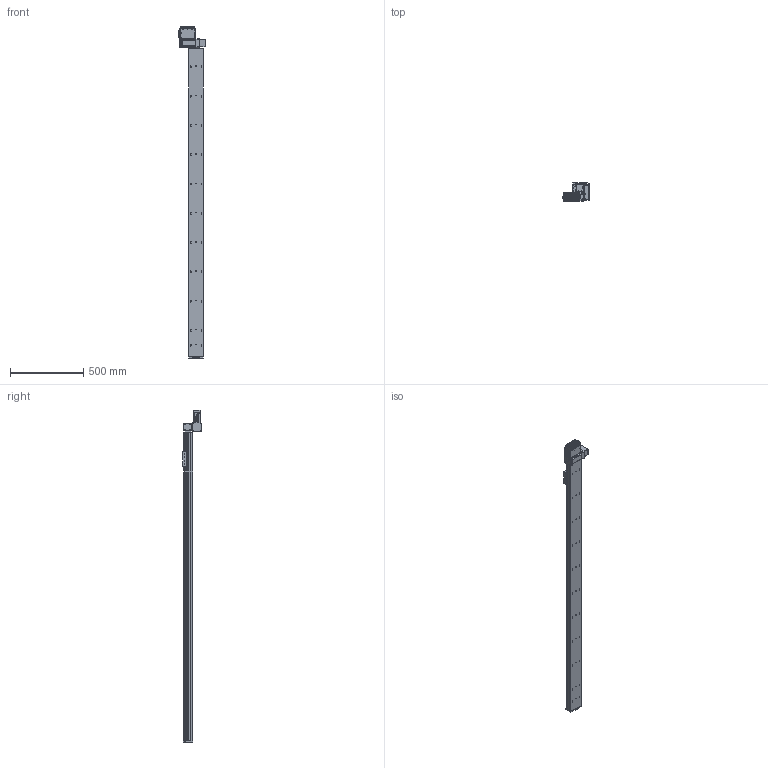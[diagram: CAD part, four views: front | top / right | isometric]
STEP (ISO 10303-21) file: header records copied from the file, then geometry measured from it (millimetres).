
FILE_DESCRIPTION (( 'STEP AP203' ), '1' );
FILE_NAME ('S10 TBH LH S2100.STEP', '2012-06-19T07:10:07', ( 'Conseil Régional Haute-Normandie' ), ( 'Conseil Régional Haute-Normandie' ), 'SwSTEP 2.0', 'SolidWorks 2010', '' );
FILE_SCHEMA (( 'CONFIG_CONTROL_DESIGN' ));
Length unit declared in the file: millimetre
Products named in the file (31): cache t皻e_Default; renvoi LH_Default; Cvis M5 L30_Default; Assem1_7; T_X2_00F4_X0_le contre le moteur_5; BU41 Carte Alimentation P05_3; T_X2_00F4_X0_le fond_3; Connecteur rond D10 3cts_5; T_X2_00F4_X0_le lat_X2_00E9_X0_rale_5; T_X2_00F4_X0_le Arri_X2_00E8_X0_re_5; Vis TF 3 torkx_1_1; S10 TBH LH S2100; cache t皻e axe_Default; palette tbn; embout; plaque de bout s10_Default; Plaque racord_Default; vis M5 L12_Default; Vis M5 L16-2_Default_1; vis M5 L5_Default; Vis TF 3 torkx; Colonnette_3; BU45 Carte d''axe A11_5; Moteur 60BLDC90A_3; Couvercle_3; Connecteur rond D12 4cts_5; Sub D 9cts 90_X2_00B_X0__3; Radiateur profil_X2_00E9_X0_ 100x25_3; Colonnette ronde_3; axe2100_Default; axe 2100
Assembly tree (70 placements, depth 3):
  S10 TBH LH S2100
    Vis M5 L16-2_Default_1  x4
    renvoi LH_Default
    Vis TF 3 torkx  x7
    cache t皻e_Default  x2
    vis M5 L12_Default  x4
    vis M5 L5_Default  x4
    Assem1_7
      BU41 Carte Alimentation P05_3
      Connecteur rond D12 4cts_5
      Vis TF 3 torkx_1_1  x21
      Connecteur rond D10 3cts_5  x2
      T_X2_00F4_X0_le Arri_X2_00E8_X0_re_5
      T_X2_00F4_X0_le contre le moteur_5
      Moteur 60BLDC90A_3
      Radiateur profil_X2_00E9_X0_ 100x25_3
      Colonnette_3  x2
      BU45 Carte d''axe A11_5
      Sub D 9cts 90_X2_00B_X0__3
      T_X2_00F4_X0_le lat_X2_00E9_X0_rale_5  x2
      Couvercle_3
      T_X2_00F4_X0_le fond_3
      Colonnette ronde_3
    palette tbn
    axe2100_Default
      axe 2100
    Cvis M5 L30_Default  x2
    Plaque racord_Default
    plaque de bout s10_Default
    cache t皻e axe_Default
    embout
Bounding box: 189.8 x 124.75 x 2266.5 mm (x, y, z)
Volume: 11731873.4 mm3; surface area: 1303700 mm2
Topology: 68 solids, 68 shells, 2563 faces, 6355 edges, 4103 vertices
Faces by surface type: plane 1223, cylinder 1101, cone 196, bspline 40, torus 3
Entity records: 50756 total; most frequent: CARTESIAN_POINT 9060, DIRECTION 8206, ORIENTED_EDGE 7414, EDGE_CURVE 3707, AXIS2_PLACEMENT_3D 3060, VERTEX_POINT 2419, VECTOR 2086, LINE 2086
